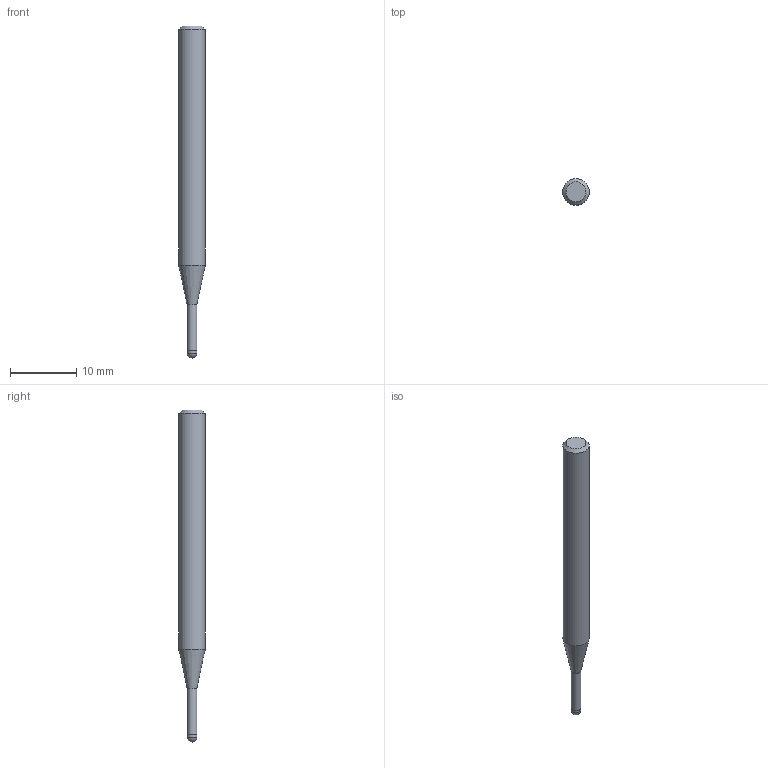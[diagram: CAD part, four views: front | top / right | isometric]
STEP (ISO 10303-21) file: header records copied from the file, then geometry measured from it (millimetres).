
FILE_DESCRIPTION((''),'2;1');
FILE_NAME('C:\Users\nsx150\AppData\Local\Temp\Mastercam 2021\ZXBT0ST9RL\TEMP.step','2021-06-25T11:03:00',(''),(''),'STEP Write','Mastercam 2021 ... CNC Software, Inc.','');
FILE_SCHEMA(('AUTOMOTIVE_DESIGN'));
Length unit declared in the file: millimetre
Products named in the file (1): None
Bounding box: 4 x 4 x 50 mm (x, y, z)
Volume: 501.4 mm3; surface area: 553.5 mm2
Topology: 2 solids, 2 shells, 9 faces, 14 edges, 8 vertices
Faces by surface type: plane 3, cylinder 3, cone 2, sphere 1
Full cylindrical faces by diameter (mm): 1.45 x1, 1.5 x1, 4 x1
Entity records: 211 total; most frequent: DIRECTION 36, CARTESIAN_POINT 25, AXIS2_PLACEMENT_3D 18, ORIENTED_EDGE 14, EDGE_LOOP 14, STYLED_ITEM 12, ADVANCED_FACE 9, FACE_BOUND 8
